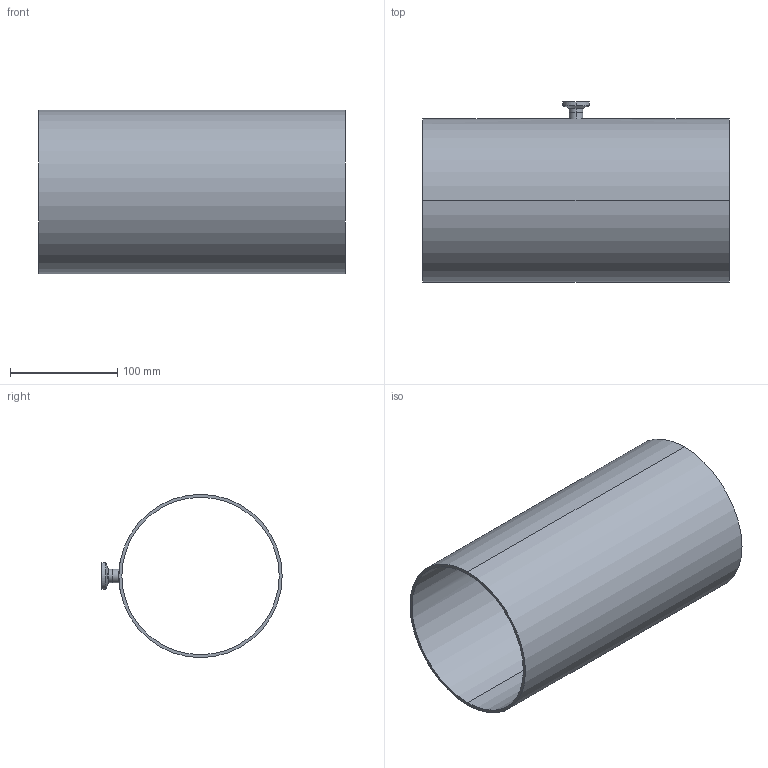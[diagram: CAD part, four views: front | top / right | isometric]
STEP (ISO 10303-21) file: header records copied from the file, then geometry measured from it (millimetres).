
FILE_DESCRIPTION (( 'STEP AP214' ), '1' );
FILE_NAME ('TE7RWWCS6L6.0x.5-...STEP', '2016-05-23T12:33:25', ( 'eran' ), ( '' ), 'SwSTEP 2.0', 'SolidWorks 2016', '' );
FILE_SCHEMA (( 'AUTOMOTIVE_DESIGN' ));
Length unit declared in the file: millimetre
Products named in the file (1): TE7RWWCS6L6.0x.5-..
Bounding box: 285.8 x 168.3 x 152.4 mm (x, y, z)
Volume: 374184.7 mm3; surface area: 273384.2 mm2
Topology: 2 solids, 2 shells, 34 faces, 70 edges, 42 vertices
Faces by surface type: cylinder 16, bspline 8, plane 6, cone 4
Entity records: 1189 total; most frequent: CARTESIAN_POINT 429, DIRECTION 158, ORIENTED_EDGE 140, EDGE_CURVE 70, AXIS2_PLACEMENT_3D 69, CIRCLE 42, EDGE_LOOP 42, VERTEX_POINT 42
